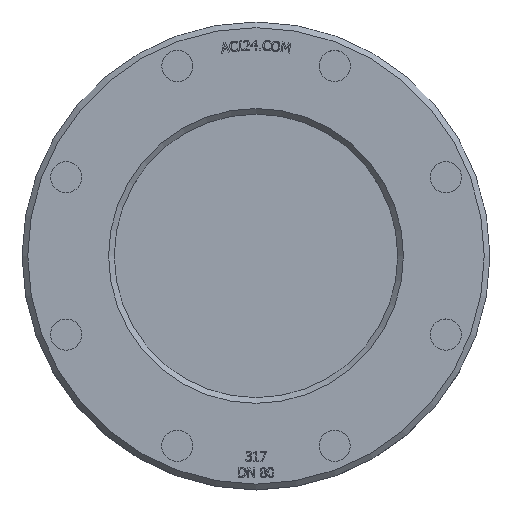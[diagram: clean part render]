
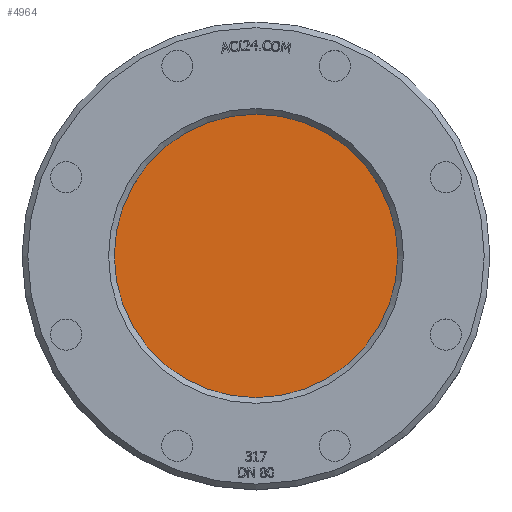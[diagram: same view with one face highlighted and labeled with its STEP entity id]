
A CAD part, top view. The second image highlights one B-rep face of the part: STEP entity #4964.
In plain terms, the highlighted planar face has unit normal (0, 0, 1).
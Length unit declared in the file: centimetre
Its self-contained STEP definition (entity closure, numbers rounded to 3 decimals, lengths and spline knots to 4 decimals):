
#1597=FACE_OUTER_BOUND('',#1873,.T.);
#1873=EDGE_LOOP('',(#3406));
#2196=CIRCLE('',#5244,5.);
#2221=VERTEX_POINT('',#6252);
#2700=EDGE_CURVE('',#2221,#2221,#2196,.T.);
#3406=ORIENTED_EDGE('',*,*,#2700,.F.);
#4818=PLANE('',#5243);
#4964=ADVANCED_FACE('',(#1597),#4818,.F.);
#5243=AXIS2_PLACEMENT_3D('',#6251,#5432,#5433);
#5244=AXIS2_PLACEMENT_3D('',#6253,#5434,#5435);
#5432=DIRECTION('center_axis',(0.,0.,-1.));
#5433=DIRECTION('ref_axis',(-1.,0.,0.));
#5434=DIRECTION('center_axis',(0.,0.,-1.));
#5435=DIRECTION('ref_axis',(-1.,0.,0.));
#6251=CARTESIAN_POINT('Origin',(0.,0.,
2.15));
#6252=CARTESIAN_POINT('',(5.,0.,2.15));
#6253=CARTESIAN_POINT('Origin',(0.,0.,
2.15));
